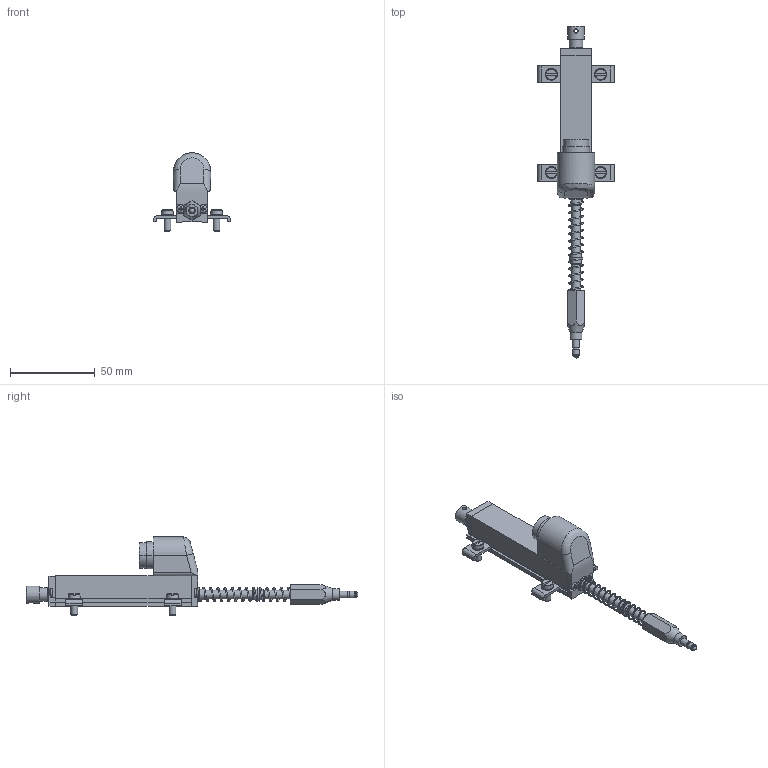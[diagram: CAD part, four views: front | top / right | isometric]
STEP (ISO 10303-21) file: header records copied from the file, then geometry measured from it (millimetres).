
FILE_DESCRIPTION( ( 'Unknown' ), '1' );
FILE_NAME( 'P:/Fertigung_TTS/2_TTS/1_CAD-Daten/4_Handelsware/3_Linearpotentiometer/LRW2_LRW3/4_Step/LRW2-C-50.stp', 'Unknown', ( 'WayCon' ), ( 'WayCon Positionsmesstechnik' ), 'PSStep 17.0.49', 'Unknown', ' ' );
FILE_SCHEMA( ( 'AUTOMOTIVE_DESIGN { 1 0 10303 214 1 1 1 1 }' ) );
Length unit declared in the file: millimetre
Products named in the file (35): BUS023X; MIM600X; MIM892X_ISO 1207 - M4 x 10 --- 10S; Molla PY compressa MIM401X_Posizione Lavoro; CUS046X; TES053X; BUS015X; ALB061X; PUN001X; BUS022X; TAS000X_Assemblato; MIM828X_ISO 7045 - M2.5 x 8 - Z --- 8S; STA029X; MIM510X_DIN 6905-3.6-FSt; TES049X; CON010X
Bounding box: 45 x 195.99 x 46.3 mm (x, y, z)
Volume: 932 mm3; surface area: 21397 mm2
Topology: 6 solids, 374 shells, 431 faces, 1907 edges, 1798 vertices
Faces by surface type: plane 254, cylinder 97, cone 47, torus 20, sphere 10, bspline 3
Full cylindrical faces by diameter (mm): 1.6 x1, 2.5 x2, 3.2 x1, 3.8 x2, 4 x10, 4.3 x4, 5 x5, 5.1 x3, 6.3 x4, 7 x2, 7.8 x3, 8 x1, 8.5 x1, 10 x1, 20.2 x1
Entity records: 26748 total; most frequent: CARTESIAN_POINT 8674, DIRECTION 3120, ORIENTED_EDGE 1873, EDGE_CURVE 1771, VERTEX_POINT 1754, AXIS2_PLACEMENT_3D 1134, LINE 852, VECTOR 852
